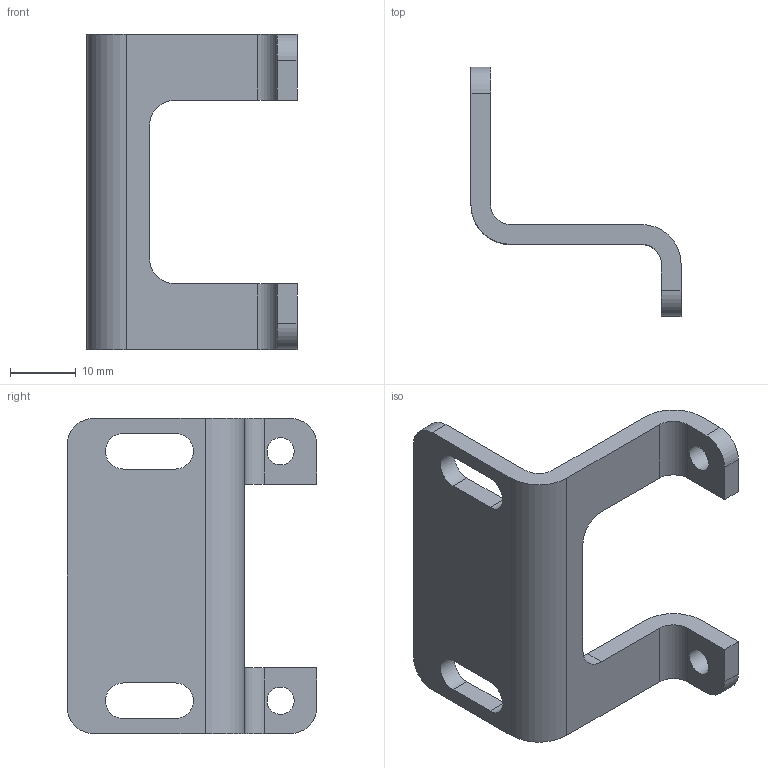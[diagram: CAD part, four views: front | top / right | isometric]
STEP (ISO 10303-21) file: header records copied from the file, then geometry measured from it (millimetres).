
FILE_DESCRIPTION((''),'2;1');
FILE_NAME('K:\ZEICHNG\webgrafik.intern\Air-Techniques Befestigungen und Behälter\step\ZW.11-1.stp','2013-06-20T09:48:58',('RJanz'),(''),'Autodesk Inventor 2013','Autodesk Inventor 2013','');
FILE_SCHEMA(('CONFIG_CONTROL_DESIGN'));
Length unit declared in the file: millimetre
Products named in the file (1): 10000725
Bounding box: 32 x 38 x 48 mm (x, y, z)
Volume: 5942.2 mm3; surface area: 5062.5 mm2
Topology: 1 solids, 1 shells, 38 faces, 110 edges, 74 vertices
Faces by surface type: plane 20, cylinder 18
Full cylindrical faces by diameter (mm): 4.134 x2
Entity records: 1280 total; most frequent: DIRECTION 220, CARTESIAN_POINT 217, ORIENTED_EDGE 212, EDGE_CURVE 106, AXIS2_PLACEMENT_3D 75, VERTEX_POINT 72, VECTOR 70, LINE 70
